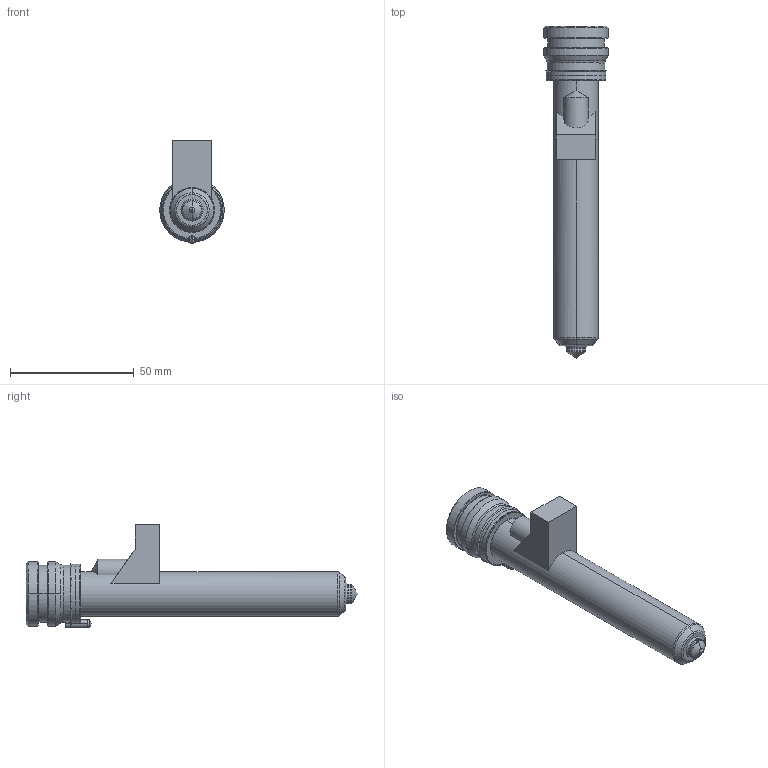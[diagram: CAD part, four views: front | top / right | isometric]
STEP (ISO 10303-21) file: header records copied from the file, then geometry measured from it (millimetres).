
FILE_DESCRIPTION((''),'2;1');
FILE_NAME('MPN-08-24-TS8-116-M','2026-02-05T13:24:40',('UPTIO'),('Thermoplay S.p.A.'),'CREO PARAMETRIC BY PTC INC, 2023494','CREO PARAMETRIC BY PTC INC, 2023494','');
FILE_SCHEMA(('CONFIG_CONTROL_DESIGN','SHAPE_APPEARANCE_LAYERS_GROUPS'));
Length unit declared in the file: millimetre
Products named in the file (1): MPN-08-24-TS8-116-M
Bounding box: 26 x 134 x 41.5 mm (x, y, z)
Volume: 26248 mm3; surface area: 34485.1 mm2
Topology: 2 solids, 5 shells, 532 faces, 1371 edges, 843 vertices
Faces by surface type: cylinder 172, plane 146, bspline 77, torus 62, cone 58, sphere 11, extrusion 6
Entity records: 27717 total; most frequent: CARTESIAN_POINT 12078, ORIENTED_EDGE 2720, DIRECTION 2456, EDGE_CURVE 1360, AXIS2_PLACEMENT_3D 960, VERTEX_POINT 843, EDGE_LOOP 561, VECTOR 536
